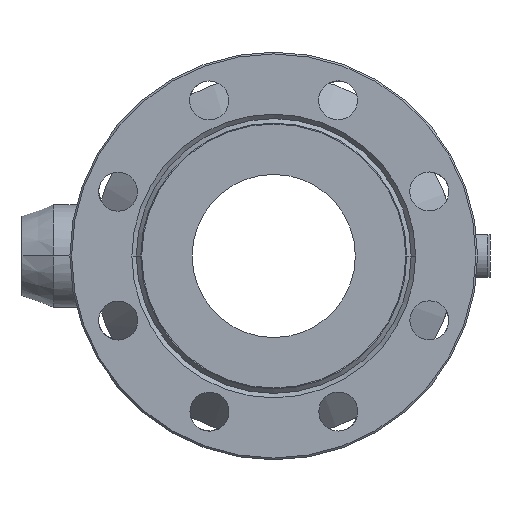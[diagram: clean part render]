
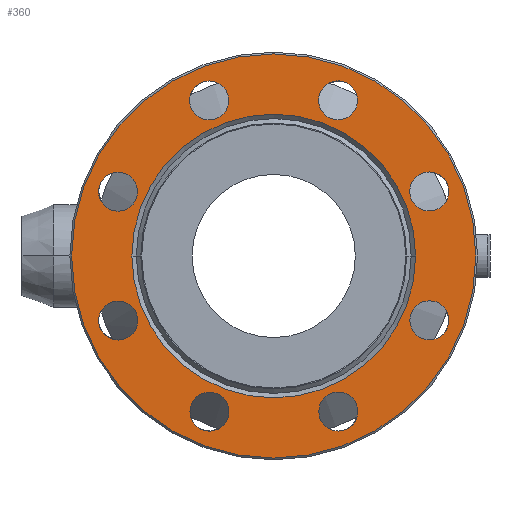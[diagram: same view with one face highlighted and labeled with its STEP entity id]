
A CAD part, left-side view. The second image highlights one B-rep face of the part: STEP entity #360.
In plain terms, the highlighted planar face has unit normal (-1, 0, 0).
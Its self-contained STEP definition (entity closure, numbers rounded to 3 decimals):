
#360=ADVANCED_FACE('',(#1563,#1565,#1567,#1569,#1571,#1573,#1575,#1577,#1579,#1581),
#1583,.T.);
#1563=FACE_BOUND('',#1564,.T.);
#1564=EDGE_LOOP('',(#3410,#3411));
#1565=FACE_BOUND('',#1566,.T.);
#1566=EDGE_LOOP('',(#3412,#3413));
#1567=FACE_BOUND('',#1568,.T.);
#1568=EDGE_LOOP('',(#3414,#3415));
#1569=FACE_BOUND('',#1570,.T.);
#1570=EDGE_LOOP('',(#3416,#3417));
#1571=FACE_BOUND('',#1572,.T.);
#1572=EDGE_LOOP('',(#3418,#3419));
#1573=FACE_BOUND('',#1574,.T.);
#1574=EDGE_LOOP('',(#3420,#3421));
#1575=FACE_BOUND('',#1576,.T.);
#1576=EDGE_LOOP('',(#3422,#3423));
#1577=FACE_BOUND('',#1578,.T.);
#1578=EDGE_LOOP('',(#3424,#3425));
#1579=FACE_BOUND('',#1580,.T.);
#1580=EDGE_LOOP('',(#3426,#3427));
#1581=FACE_OUTER_BOUND('',#1582,.T.);
#1582=EDGE_LOOP('',(#3428,#3429));
#1583=PLANE('',#1584);
#1584=AXIS2_PLACEMENT_3D('',#1585,#1586,#1587);
#1585=CARTESIAN_POINT('',(-104.548,107.419,1.028));
#1586=DIRECTION('',(-1.,0.,0.));
#1587=DIRECTION('',(0.,0.,1.));
#3410=ORIENTED_EDGE('',*,*,#4471,.T.);
#3411=ORIENTED_EDGE('',*,*,#4488,.T.);
#3412=ORIENTED_EDGE('',*,*,#4462,.T.);
#3413=ORIENTED_EDGE('',*,*,#4489,.T.);
#3414=ORIENTED_EDGE('',*,*,#4458,.T.);
#3415=ORIENTED_EDGE('',*,*,#4490,.T.);
#3416=ORIENTED_EDGE('',*,*,#4454,.T.);
#3417=ORIENTED_EDGE('',*,*,#4491,.T.);
#3418=ORIENTED_EDGE('',*,*,#4450,.T.);
#3419=ORIENTED_EDGE('',*,*,#4492,.T.);
#3420=ORIENTED_EDGE('',*,*,#4446,.T.);
#3421=ORIENTED_EDGE('',*,*,#4493,.T.);
#3422=ORIENTED_EDGE('',*,*,#4442,.T.);
#3423=ORIENTED_EDGE('',*,*,#4494,.T.);
#3424=ORIENTED_EDGE('',*,*,#4438,.T.);
#3425=ORIENTED_EDGE('',*,*,#4495,.T.);
#3426=ORIENTED_EDGE('',*,*,#4434,.T.);
#3427=ORIENTED_EDGE('',*,*,#4496,.T.);
#3428=ORIENTED_EDGE('',*,*,#4497,.T.);
#3429=ORIENTED_EDGE('',*,*,#4464,.T.);
#4434=EDGE_CURVE('',#5298,#5296,#5299,.T.);
#4438=EDGE_CURVE('',#5306,#5304,#5307,.T.);
#4442=EDGE_CURVE('',#5314,#5312,#5315,.T.);
#4446=EDGE_CURVE('',#5322,#5320,#5323,.T.);
#4450=EDGE_CURVE('',#5330,#5328,#5331,.T.);
#4454=EDGE_CURVE('',#5338,#5336,#5339,.T.);
#4458=EDGE_CURVE('',#5346,#5344,#5347,.T.);
#4462=EDGE_CURVE('',#5354,#5352,#5355,.T.);
#4464=EDGE_CURVE('',#5357,#5358,#5359,.T.);
#4471=EDGE_CURVE('',#5372,#5370,#5373,.T.);
#4488=EDGE_CURVE('',#5370,#5372,#5401,.T.);
#4489=EDGE_CURVE('',#5352,#5354,#5402,.T.);
#4490=EDGE_CURVE('',#5344,#5346,#5403,.T.);
#4491=EDGE_CURVE('',#5336,#5338,#5404,.T.);
#4492=EDGE_CURVE('',#5328,#5330,#5405,.T.);
#4493=EDGE_CURVE('',#5320,#5322,#5406,.T.);
#4494=EDGE_CURVE('',#5312,#5314,#5407,.T.);
#4495=EDGE_CURVE('',#5304,#5306,#5408,.T.);
#4496=EDGE_CURVE('',#5296,#5298,#5409,.T.);
#4497=EDGE_CURVE('',#5358,#5357,#5410,.T.);
#5296=VERTEX_POINT('',#7748);
#5298=VERTEX_POINT('',#7752);
#5299=CIRCLE('',#7753,11.);
#5304=VERTEX_POINT('',#7766);
#5306=VERTEX_POINT('',#7770);
#5307=CIRCLE('',#7771,11.);
#5312=VERTEX_POINT('',#7784);
#5314=VERTEX_POINT('',#7788);
#5315=CIRCLE('',#7789,11.);
#5320=VERTEX_POINT('',#7802);
#5322=VERTEX_POINT('',#7806);
#5323=CIRCLE('',#7807,11.);
#5328=VERTEX_POINT('',#7820);
#5330=VERTEX_POINT('',#7824);
#5331=CIRCLE('',#7825,11.);
#5336=VERTEX_POINT('',#7838);
#5338=VERTEX_POINT('',#7842);
#5339=CIRCLE('',#7843,11.);
#5344=VERTEX_POINT('',#7856);
#5346=VERTEX_POINT('',#7860);
#5347=CIRCLE('',#7861,11.);
#5352=VERTEX_POINT('',#7874);
#5354=VERTEX_POINT('',#7878);
#5355=CIRCLE('',#7879,11.);
#5357=VERTEX_POINT('',#7886);
#5358=VERTEX_POINT('',#7887);
#5359=CIRCLE('',#7888,114.);
#5370=VERTEX_POINT('',#7915);
#5372=VERTEX_POINT('',#7919);
#5373=CIRCLE('',#7920,80.);
#5401=CIRCLE('',#7990,80.);
#5402=CIRCLE('',#7994,11.);
#5403=CIRCLE('',#7998,11.);
#5404=CIRCLE('',#8002,11.);
#5405=CIRCLE('',#8006,11.);
#5406=CIRCLE('',#8010,11.);
#5407=CIRCLE('',#8014,11.);
#5408=CIRCLE('',#8018,11.);
#5409=CIRCLE('',#8022,11.);
#5410=CIRCLE('',#8026,114.);
#7748=CARTESIAN_POINT('',(-104.548,-95.318,26.558));
#7752=CARTESIAN_POINT('',(-104.548,-95.318,48.558));
#7753=AXIS2_PLACEMENT_3D('',#7754,#7755,#7756);
#7754=CARTESIAN_POINT('',(-104.548,-95.318,37.558));
#7755=DIRECTION('',(1.,0.,0.));
#7756=DIRECTION('',(0.,0.,1.));
#7766=CARTESIAN_POINT('',(-104.548,-43.86,77.927));
#7770=CARTESIAN_POINT('',(-104.548,-43.86,99.927));
#7771=AXIS2_PLACEMENT_3D('',#7772,#7773,#7774);
#7772=CARTESIAN_POINT('',(-104.548,-43.86,88.927));
#7773=DIRECTION('',(1.,0.,0.));
#7774=DIRECTION('',(0.,0.,1.));
#7784=CARTESIAN_POINT('',(-104.548,-95.381,-46.151));
#7788=CARTESIAN_POINT('',(-104.548,-95.381,-24.151));
#7789=AXIS2_PLACEMENT_3D('',#7790,#7791,#7792);
#7790=CARTESIAN_POINT('',(-104.548,-95.381,-35.151));
#7791=DIRECTION('',(1.,0.,0.));
#7792=DIRECTION('',(0.,0.,1.));
#7802=CARTESIAN_POINT('',(-104.548,-44.012,-97.61));
#7806=CARTESIAN_POINT('',(-104.548,-44.012,-75.61));
#7807=AXIS2_PLACEMENT_3D('',#7808,#7809,#7810);
#7808=CARTESIAN_POINT('',(-104.548,-44.012,-86.61));
#7809=DIRECTION('',(1.,0.,0.));
#7810=DIRECTION('',(0.,0.,1.));
#7820=CARTESIAN_POINT('',(-104.548,80.219,26.406));
#7824=CARTESIAN_POINT('',(-104.548,80.219,48.406));
#7825=AXIS2_PLACEMENT_3D('',#7826,#7827,#7828);
#7826=CARTESIAN_POINT('',(-104.548,80.219,37.406));
#7827=DIRECTION('',(1.,0.,0.));
#7828=DIRECTION('',(0.,0.,1.));
#7838=CARTESIAN_POINT('',(-104.548,28.85,77.864));
#7842=CARTESIAN_POINT('',(-104.548,28.85,99.864));
#7843=AXIS2_PLACEMENT_3D('',#7844,#7845,#7846);
#7844=CARTESIAN_POINT('',(-104.548,28.85,88.864));
#7845=DIRECTION('',(1.,0.,0.));
#7846=DIRECTION('',(0.,0.,1.));
#7856=CARTESIAN_POINT('',(-104.548,80.156,-46.304));
#7860=CARTESIAN_POINT('',(-104.548,80.156,-24.304));
#7861=AXIS2_PLACEMENT_3D('',#7862,#7863,#7864);
#7862=CARTESIAN_POINT('',(-104.548,80.156,-35.304));
#7863=DIRECTION('',(1.,0.,0.));
#7864=DIRECTION('',(0.,0.,1.));
#7874=CARTESIAN_POINT('',(-104.548,28.698,-97.673));
#7878=CARTESIAN_POINT('',(-104.548,28.698,-75.673));
#7879=AXIS2_PLACEMENT_3D('',#7880,#7881,#7882);
#7880=CARTESIAN_POINT('',(-104.548,28.698,-86.673));
#7881=DIRECTION('',(1.,0.,0.));
#7882=DIRECTION('',(0.,0.,1.));
#7886=CARTESIAN_POINT('',(-104.548,-121.581,1.127));
#7887=CARTESIAN_POINT('',(-104.548,106.419,1.127));
#7888=AXIS2_PLACEMENT_3D('',#7889,#7890,#7891);
#7889=CARTESIAN_POINT('',(-104.548,-7.581,1.127));
#7890=DIRECTION('',(-1.,0.,0.));
#7891=DIRECTION('',(0.,-1.,0.));
#7915=CARTESIAN_POINT('',(-104.548,72.419,1.127));
#7919=CARTESIAN_POINT('',(-104.548,-87.581,1.127));
#7920=AXIS2_PLACEMENT_3D('',#7921,#7922,#7923);
#7921=CARTESIAN_POINT('',(-104.548,-7.581,1.127));
#7922=DIRECTION('',(1.,0.,0.));
#7923=DIRECTION('',(0.,-1.,0.));
#7990=AXIS2_PLACEMENT_3D('',#7991,#7992,#7993);
#7991=CARTESIAN_POINT('',(-104.548,-7.581,1.127));
#7992=DIRECTION('',(1.,0.,0.));
#7993=DIRECTION('',(0.,1.,0.));
#7994=AXIS2_PLACEMENT_3D('',#7995,#7996,#7997);
#7995=CARTESIAN_POINT('',(-104.548,28.698,-86.673));
#7996=DIRECTION('',(1.,0.,0.));
#7997=DIRECTION('',(0.,0.,-1.));
#7998=AXIS2_PLACEMENT_3D('',#7999,#8000,#8001);
#7999=CARTESIAN_POINT('',(-104.548,80.156,-35.304));
#8000=DIRECTION('',(1.,0.,0.));
#8001=DIRECTION('',(0.,0.,-1.));
#8002=AXIS2_PLACEMENT_3D('',#8003,#8004,#8005);
#8003=CARTESIAN_POINT('',(-104.548,28.85,88.864));
#8004=DIRECTION('',(1.,0.,0.));
#8005=DIRECTION('',(0.,0.,-1.));
#8006=AXIS2_PLACEMENT_3D('',#8007,#8008,#8009);
#8007=CARTESIAN_POINT('',(-104.548,80.219,37.406));
#8008=DIRECTION('',(1.,0.,0.));
#8009=DIRECTION('',(0.,0.,-1.));
#8010=AXIS2_PLACEMENT_3D('',#8011,#8012,#8013);
#8011=CARTESIAN_POINT('',(-104.548,-44.012,-86.61));
#8012=DIRECTION('',(1.,0.,0.));
#8013=DIRECTION('',(0.,0.,-1.));
#8014=AXIS2_PLACEMENT_3D('',#8015,#8016,#8017);
#8015=CARTESIAN_POINT('',(-104.548,-95.381,-35.151));
#8016=DIRECTION('',(1.,0.,0.));
#8017=DIRECTION('',(0.,0.,-1.));
#8018=AXIS2_PLACEMENT_3D('',#8019,#8020,#8021);
#8019=CARTESIAN_POINT('',(-104.548,-43.86,88.927));
#8020=DIRECTION('',(1.,0.,0.));
#8021=DIRECTION('',(0.,0.,-1.));
#8022=AXIS2_PLACEMENT_3D('',#8023,#8024,#8025);
#8023=CARTESIAN_POINT('',(-104.548,-95.318,37.558));
#8024=DIRECTION('',(1.,0.,0.));
#8025=DIRECTION('',(0.,0.,-1.));
#8026=AXIS2_PLACEMENT_3D('',#8027,#8028,#8029);
#8027=CARTESIAN_POINT('',(-104.548,-7.581,1.127));
#8028=DIRECTION('',(-1.,0.,0.));
#8029=DIRECTION('',(0.,1.,0.));
